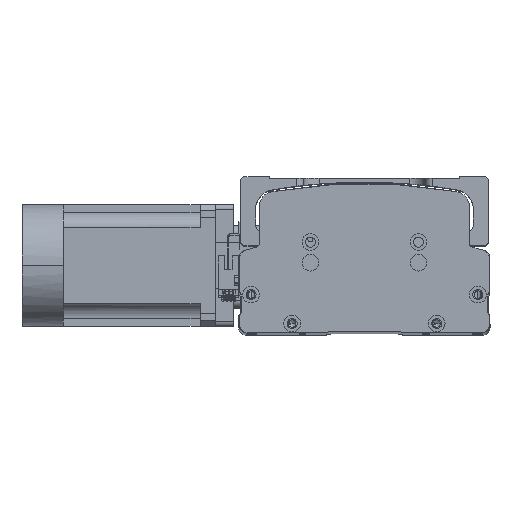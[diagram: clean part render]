
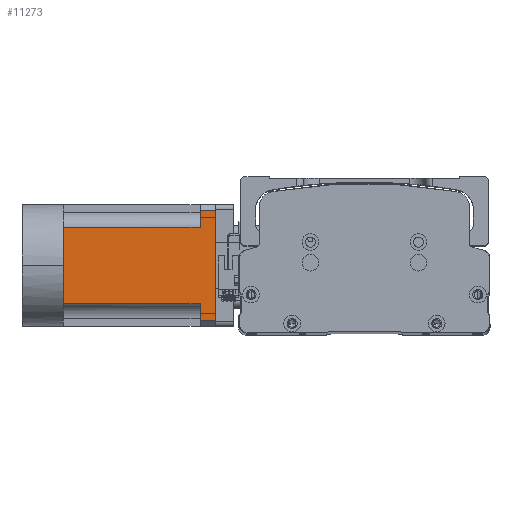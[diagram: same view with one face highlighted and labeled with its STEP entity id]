
A CAD part, top view. The second image highlights one B-rep face of the part: STEP entity #11273.
In plain terms, the highlighted planar face has unit normal (0, -0.003, 1) as drawn and (0, 0, -1) by its records, which use the part's own axes.
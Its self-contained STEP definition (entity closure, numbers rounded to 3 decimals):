
#890 = LINE ( 'NONE', #48216, #19493 ) ;
#1497 = VECTOR ( 'NONE', #37109, 1000. ) ;
#1909 = VERTEX_POINT ( 'NONE', #18699 ) ;
#2014 = VERTEX_POINT ( 'NONE', #26847 ) ;
#2392 = EDGE_CURVE ( 'NONE', #9048, #9113, #890, .T. ) ;
#2757 = ORIENTED_EDGE ( 'NONE', *, *, #19748, .T. ) ;
#3237 = CARTESIAN_POINT ( 'NONE',  ( -40., 90., -40. ) ) ;
#3673 = DIRECTION ( 'NONE',  ( -1., 0., 0. ) ) ;
#3800 = LINE ( 'NONE', #19034, #13690 ) ;
#6334 = PLANE ( 'NONE',  #32227 ) ;
#6992 = VECTOR ( 'NONE', #18189, 1000. ) ;
#7460 = VERTEX_POINT ( 'NONE', #24289 ) ;
#9048 = VERTEX_POINT ( 'NONE', #15369 ) ;
#9113 = VERTEX_POINT ( 'NONE', #26922 ) ;
#9819 = DIRECTION ( 'NONE',  ( 0., 1., 0. ) ) ;
#11091 = ORIENTED_EDGE ( 'NONE', *, *, #2392, .F. ) ;
#11273 = ADVANCED_FACE ( 'NONE', ( #25399 ), #6334, .T. ) ;
#12764 = LINE ( 'NONE', #26680, #47648 ) ;
#13690 = VECTOR ( 'NONE', #41295, 1000. ) ;
#13833 = CARTESIAN_POINT ( 'NONE',  ( -40., -27., -40. ) ) ;
#13974 = EDGE_CURVE ( 'NONE', #9048, #34984, #31147, .T. ) ;
#14859 = CARTESIAN_POINT ( 'NONE',  ( 36., -27., -40. ) ) ;
#15067 = VECTOR ( 'NONE', #21644, 1000. ) ;
#15369 = CARTESIAN_POINT ( 'NONE',  ( 36., 100., -40. ) ) ;
#15885 = ORIENTED_EDGE ( 'NONE', *, *, #13974, .T. ) ;
#16458 = VECTOR ( 'NONE', #22768, 1000. ) ;
#16938 = LINE ( 'NONE', #3237, #6992 ) ;
#17569 = DIRECTION ( 'NONE',  ( -1., 0., 0. ) ) ;
#18189 = DIRECTION ( 'NONE',  ( -1., 0., 0. ) ) ;
#18638 = VECTOR ( 'NONE', #27909, 1000. ) ;
#18699 = CARTESIAN_POINT ( 'NONE',  ( 25., 90., -40. ) ) ;
#19034 = CARTESIAN_POINT ( 'NONE',  ( -40., 0., -40. ) ) ;
#19343 = ORIENTED_EDGE ( 'NONE', *, *, #37062, .T. ) ;
#19493 = VECTOR ( 'NONE', #3673, 1000. ) ;
#19748 = EDGE_CURVE ( 'NONE', #1909, #2014, #12764, .T. ) ;
#19796 = VERTEX_POINT ( 'NONE', #41744 ) ;
#21644 = DIRECTION ( 'NONE',  ( 0., 1., 0. ) ) ;
#22768 = DIRECTION ( 'NONE',  ( -1., 0., 0. ) ) ;
#23344 = EDGE_LOOP ( 'NONE', ( #11091, #15885, #41605, #2757, #31484, #19343, #28632, #35647, #47337 ) ) ;
#23805 = LINE ( 'NONE', #47631, #15067 ) ;
#24179 = CARTESIAN_POINT ( 'NONE',  ( -40., 0., -40. ) ) ;
#24289 = CARTESIAN_POINT ( 'NONE',  ( -36., 90., -40. ) ) ;
#25399 = FACE_OUTER_BOUND ( 'NONE', #23344, .T. ) ;
#25631 = EDGE_CURVE ( 'NONE', #34984, #1909, #16938, .T. ) ;
#26680 = CARTESIAN_POINT ( 'NONE',  ( 25., -27., -40. ) ) ;
#26847 = CARTESIAN_POINT ( 'NONE',  ( 25., 0., -40. ) ) ;
#26922 = CARTESIAN_POINT ( 'NONE',  ( -36., 100., -40. ) ) ;
#27909 = DIRECTION ( 'NONE',  ( -1., 0., 0. ) ) ;
#28632 = ORIENTED_EDGE ( 'NONE', *, *, #33717, .T. ) ;
#30132 = VERTEX_POINT ( 'NONE', #48161 ) ;
#30376 = DIRECTION ( 'NONE',  ( 0., -1., 0. ) ) ;
#31147 = LINE ( 'NONE', #14859, #1497 ) ;
#31484 = ORIENTED_EDGE ( 'NONE', *, *, #32290, .T. ) ;
#32120 = CARTESIAN_POINT ( 'NONE',  ( -25., -27., -40. ) ) ;
#32227 = AXIS2_PLACEMENT_3D ( 'NONE', #13833, #39847, #17569 ) ;
#32290 = EDGE_CURVE ( 'NONE', #2014, #19796, #3800, .T. ) ;
#33717 = EDGE_CURVE ( 'NONE', #35954, #30132, #39956, .T. ) ;
#33949 = CARTESIAN_POINT ( 'NONE',  ( 36., 90., -40. ) ) ;
#33997 = CARTESIAN_POINT ( 'NONE',  ( -40., 90., -40. ) ) ;
#34984 = VERTEX_POINT ( 'NONE', #33949 ) ;
#35053 = LINE ( 'NONE', #33997, #16458 ) ;
#35647 = ORIENTED_EDGE ( 'NONE', *, *, #36160, .T. ) ;
#35954 = VERTEX_POINT ( 'NONE', #47338 ) ;
#36160 = EDGE_CURVE ( 'NONE', #30132, #7460, #35053, .T. ) ;
#37062 = EDGE_CURVE ( 'NONE', #19796, #35954, #37227, .T. ) ;
#37109 = DIRECTION ( 'NONE',  ( 0., -1., 0. ) ) ;
#37227 = LINE ( 'NONE', #24179, #18638 ) ;
#37780 = EDGE_CURVE ( 'NONE', #7460, #9113, #23805, .T. ) ;
#39847 = DIRECTION ( 'NONE',  ( 0., 0., -1. ) ) ;
#39956 = LINE ( 'NONE', #32120, #47503 ) ;
#41295 = DIRECTION ( 'NONE',  ( -1., 0., 0. ) ) ;
#41605 = ORIENTED_EDGE ( 'NONE', *, *, #25631, .T. ) ;
#41744 = CARTESIAN_POINT ( 'NONE',  ( 0., 0., -40. ) ) ;
#47337 = ORIENTED_EDGE ( 'NONE', *, *, #37780, .T. ) ;
#47338 = CARTESIAN_POINT ( 'NONE',  ( -25., 0., -40. ) ) ;
#47503 = VECTOR ( 'NONE', #9819, 1000. ) ;
#47631 = CARTESIAN_POINT ( 'NONE',  ( -36., -27., -40. ) ) ;
#47648 = VECTOR ( 'NONE', #30376, 1000. ) ;
#48161 = CARTESIAN_POINT ( 'NONE',  ( -25., 90., -40. ) ) ;
#48216 = CARTESIAN_POINT ( 'NONE',  ( -40., 100., -40. ) ) ;
